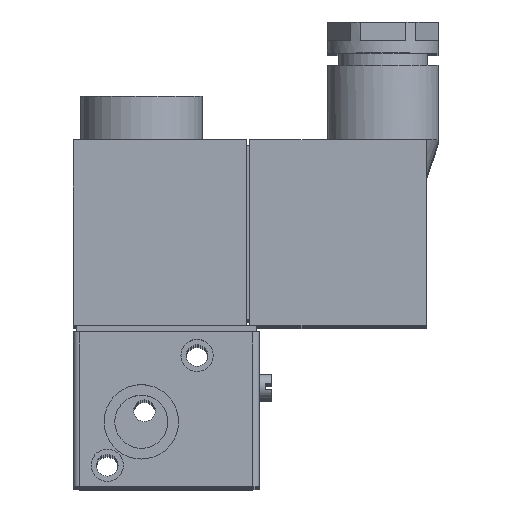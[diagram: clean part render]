
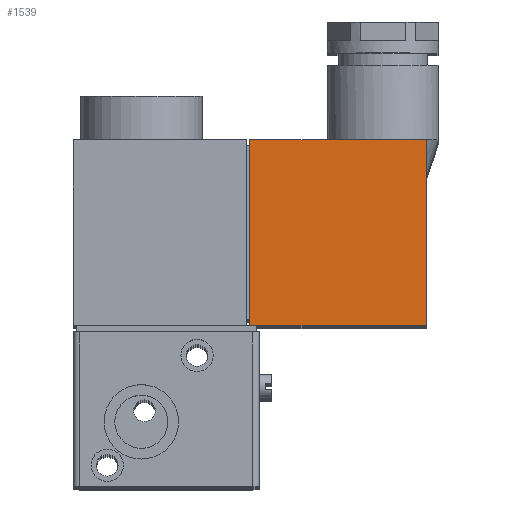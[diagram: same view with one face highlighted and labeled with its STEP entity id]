
A CAD part, top view. The second image highlights one B-rep face of the part: STEP entity #1539.
In plain terms, the highlighted planar face has unit normal (0, 0, 1).
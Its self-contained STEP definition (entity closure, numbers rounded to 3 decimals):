
#243=FACE_OUTER_BOUND('',#356,.T.);
#356=EDGE_LOOP('',(#1298,#1299,#1300,#1301));
#442=LINE('',#2570,#563);
#472=LINE('',#2634,#593);
#474=LINE('',#2640,#595);
#475=LINE('',#2642,#596);
#563=VECTOR('',#2092,1000.);
#593=VECTOR('',#2146,1000.);
#595=VECTOR('',#2154,1000.);
#596=VECTOR('',#2157,1000.);
#772=VERTEX_POINT('',#2567);
#773=VERTEX_POINT('',#2569);
#793=VERTEX_POINT('',#2628);
#795=VERTEX_POINT('',#2632);
#936=EDGE_CURVE('',#772,#773,#442,.T.);
#967=EDGE_CURVE('',#793,#795,#472,.T.);
#971=EDGE_CURVE('',#772,#793,#474,.T.);
#972=EDGE_CURVE('',#773,#795,#475,.T.);
#1298=ORIENTED_EDGE('',*,*,#967,.T.);
#1299=ORIENTED_EDGE('',*,*,#972,.F.);
#1300=ORIENTED_EDGE('',*,*,#936,.F.);
#1301=ORIENTED_EDGE('',*,*,#971,.T.);
#1455=PLANE('',#1754);
#1539=ADVANCED_FACE('',(#243),#1455,.F.);
#1754=AXIS2_PLACEMENT_3D('',#2641,#2155,#2156);
#2092=DIRECTION('',(0.,-1.,0.));
#2146=DIRECTION('',(0.,-1.,0.));
#2154=DIRECTION('',(-1.,0.,0.));
#2155=DIRECTION('center_axis',(0.,0.,-1.));
#2156=DIRECTION('ref_axis',(-1.,0.,0.));
#2157=DIRECTION('',(-1.,0.,0.));
#2567=CARTESIAN_POINT('',(57.,30.,22.));
#2569=CARTESIAN_POINT('',(57.,0.,22.));
#2570=CARTESIAN_POINT('',(57.,30.,22.));
#2628=CARTESIAN_POINT('',(28.5,30.,22.));
#2632=CARTESIAN_POINT('',(28.5,0.,22.));
#2634=CARTESIAN_POINT('',(28.5,30.,22.));
#2640=CARTESIAN_POINT('',(57.,30.,22.));
#2641=CARTESIAN_POINT('Origin',(57.,30.,22.));
#2642=CARTESIAN_POINT('',(57.,0.,22.));
